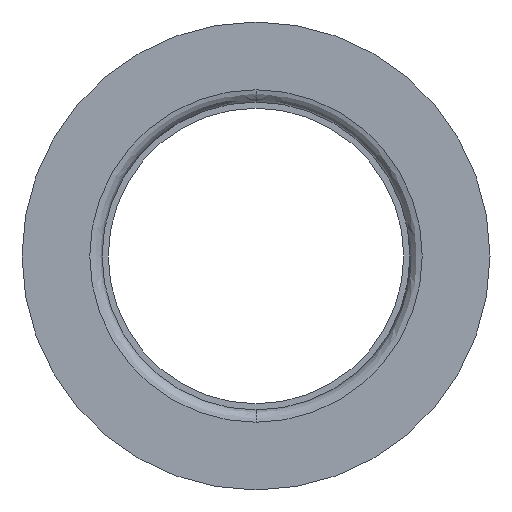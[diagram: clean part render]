
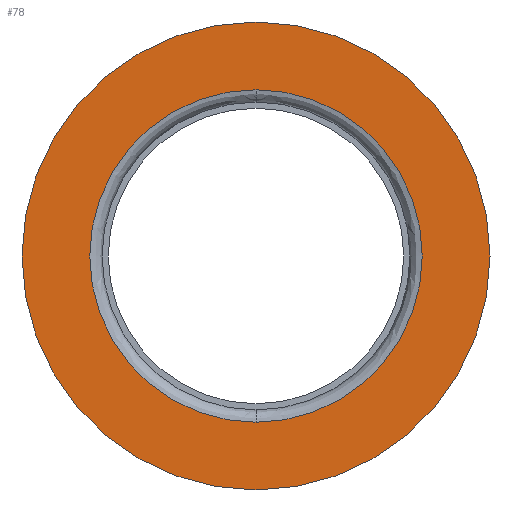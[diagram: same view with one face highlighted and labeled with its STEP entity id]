
A CAD part, left-side view. The second image highlights one B-rep face of the part: STEP entity #78.
In plain terms, the highlighted free-form (B-spline) face has degree [1, 1] with [2, 2] control points.
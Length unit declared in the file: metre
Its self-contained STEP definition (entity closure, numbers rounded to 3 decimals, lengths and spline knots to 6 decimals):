
#78 = ADVANCED_FACE( '', ( #105, #106 ), #107, .T. );
#105 = FACE_BOUND( '', #160, .T. );
#106 = FACE_OUTER_BOUND( '', #161, .T. );
#107 = B_SPLINE_SURFACE_WITH_KNOTS( '', 1, 1, ( ( #162, #163 ), ( #164, #165 ) ), .UNSPECIFIED., .F., .F., .F., ( 2, 2 ), ( 2, 2 ), ( 0., 1. ), ( 0., 1. ), .UNSPECIFIED. );
#160 = EDGE_LOOP( '', ( #339, #340 ) );
#161 = EDGE_LOOP( '', ( #341, #342 ) );
#162 = CARTESIAN_POINT( '', ( -0.01, -0.009614, -0.009614 ) );
#163 = CARTESIAN_POINT( '', ( -0.01, 0.009614, -0.009614 ) );
#164 = CARTESIAN_POINT( '', ( -0.01, -0.009614, 0.009614 ) );
#165 = CARTESIAN_POINT( '', ( -0.01, 0.009614, 0.009614 ) );
#339 = ORIENTED_EDGE( '', *, *, #487, .T. );
#340 = ORIENTED_EDGE( '', *, *, #488, .T. );
#341 = ORIENTED_EDGE( '', *, *, #489, .T. );
#342 = ORIENTED_EDGE( '', *, *, #490, .T. );
#487 = EDGE_CURVE( '', #539, #540, #541, .F. );
#488 = EDGE_CURVE( '', #540, #539, #542, .F. );
#489 = EDGE_CURVE( '', #543, #544, #545, .F. );
#490 = EDGE_CURVE( '', #544, #543, #546, .F. );
#539 = VERTEX_POINT( '', #619 );
#540 = VERTEX_POINT( '', #620 );
#541 = CIRCLE( '', #621, 0.00675 );
#542 = CIRCLE( '', #622, 0.00675 );
#543 = VERTEX_POINT( '', #623 );
#544 = VERTEX_POINT( '', #624 );
#545 = CIRCLE( '', #625, 0.0095 );
#546 = CIRCLE( '', #626, 0.0095 );
#619 = CARTESIAN_POINT( '', ( -0.01, 0., -0.00675 ) );
#620 = CARTESIAN_POINT( '', ( -0.01, 0., 0.00675 ) );
#621 = AXIS2_PLACEMENT_3D( '', #749, #750, #751 );
#622 = AXIS2_PLACEMENT_3D( '', #752, #753, #754 );
#623 = CARTESIAN_POINT( '', ( -0.01, 0., 0.0095 ) );
#624 = CARTESIAN_POINT( '', ( -0.01, 0., -0.0095 ) );
#625 = AXIS2_PLACEMENT_3D( '', #755, #756, #757 );
#626 = AXIS2_PLACEMENT_3D( '', #758, #759, #760 );
#749 = CARTESIAN_POINT( '', ( -0.01, 0., 0. ) );
#750 = DIRECTION( '', ( -1., 0., 0. ) );
#751 = DIRECTION( '', ( 0., -1., 0. ) );
#752 = CARTESIAN_POINT( '', ( -0.01, 0., 0. ) );
#753 = DIRECTION( '', ( -1., 0., 0. ) );
#754 = DIRECTION( '', ( 0., -1., 0. ) );
#755 = CARTESIAN_POINT( '', ( -0.01, 0., 0. ) );
#756 = DIRECTION( '', ( 1., 0., 0. ) );
#757 = DIRECTION( '', ( 0., 0., -1. ) );
#758 = CARTESIAN_POINT( '', ( -0.01, 0., 0. ) );
#759 = DIRECTION( '', ( 1., 0., 0. ) );
#760 = DIRECTION( '', ( 0., 0., -1. ) );
